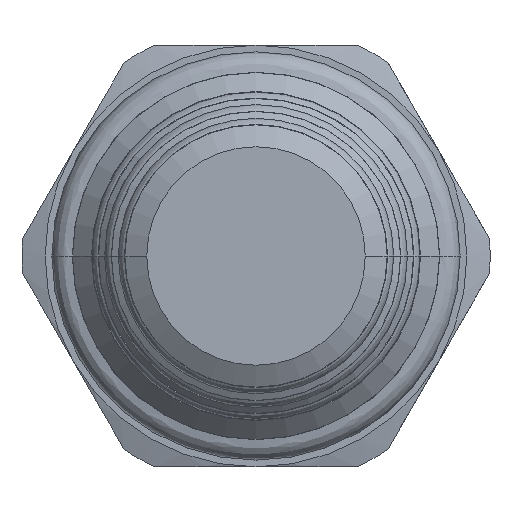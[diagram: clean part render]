
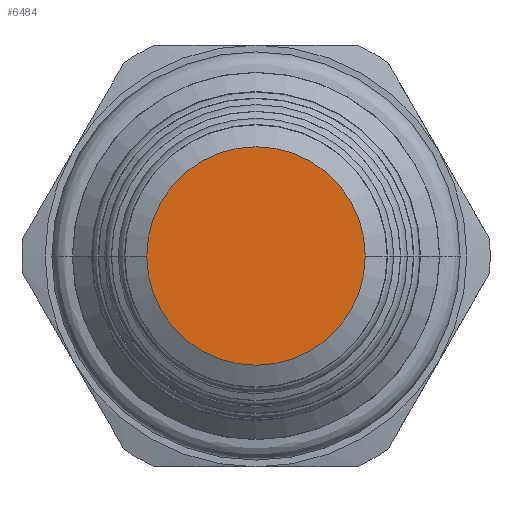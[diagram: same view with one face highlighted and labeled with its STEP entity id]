
A CAD part, front view. The second image highlights one B-rep face of the part: STEP entity #6484.
In plain terms, the highlighted planar face has unit normal (0, -1, 0).
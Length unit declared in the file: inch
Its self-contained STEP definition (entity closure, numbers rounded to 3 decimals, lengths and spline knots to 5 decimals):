
#2698=CARTESIAN_POINT('',(0.,-2.45827,0.));
#2699=DIRECTION('',(0.,1.,0.));
#2700=DIRECTION('',(1.,0.,0.));
#2701=AXIS2_PLACEMENT_3D('',#2698,#2699,#2700);
#2703=CARTESIAN_POINT('',(0.,-2.45827,0.));
#2704=DIRECTION('',(0.,1.,0.));
#2705=DIRECTION('',(-1.,0.,0.));
#2706=AXIS2_PLACEMENT_3D('',#2703,#2704,#2705);
#2914=CARTESIAN_POINT('',(0.25904,-2.45827,0.));
#2915=CARTESIAN_POINT('',(-0.25904,-2.45827,0.));
#2916=VERTEX_POINT('',#2914);
#2917=VERTEX_POINT('',#2915);
#6474=CARTESIAN_POINT('',(0.,-2.45827,0.));
#6475=DIRECTION('',(0.,1.,0.));
#6476=DIRECTION('',(1.,0.,0.));
#6477=AXIS2_PLACEMENT_3D('',#6474,#6475,#6476);
#6478=PLANE('',#6477);
#6479=ORIENTED_EDGE('',*,*,#6464,.T.);
#6481=ORIENTED_EDGE('',*,*,#6480,.T.);
#6482=EDGE_LOOP('',(#6479,#6481));
#6483=FACE_OUTER_BOUND('',#6482,.F.);
#6484=ADVANCED_FACE('',(#6483),#6478,.F.);
#2702=CIRCLE('',#2701,0.25904);
#2707=CIRCLE('',#2706,0.25904);
#6464=EDGE_CURVE('',#2916,#2917,#2702,.T.);
#6480=EDGE_CURVE('',#2917,#2916,#2707,.T.);
